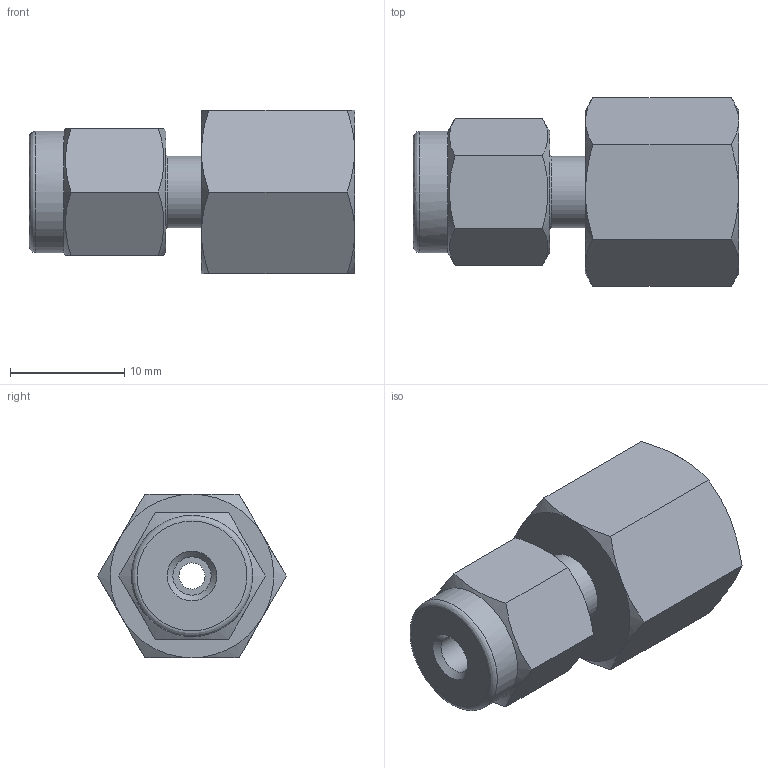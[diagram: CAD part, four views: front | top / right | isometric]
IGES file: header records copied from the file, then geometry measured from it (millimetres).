
Global section: file name: SFC-2-2N; native system: Autodesk Inventor 2016; preprocessor: unknown; author: 배성훈,,11,0; organization: 20150831.235715; date: 20151019.101807; units: millimetre
Bounding box: 28.46 x 16.51 x 14.3 mm (x, y, z)
Volume: 2881.5 mm3; surface area: 2051.6 mm2
Topology: 1 solids, 1 shells, 42 faces, 106 edges, 69 vertices
Faces by surface type: bspline 42
